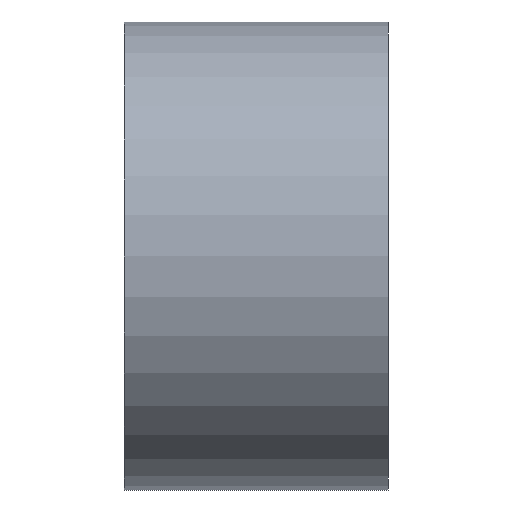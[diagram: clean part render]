
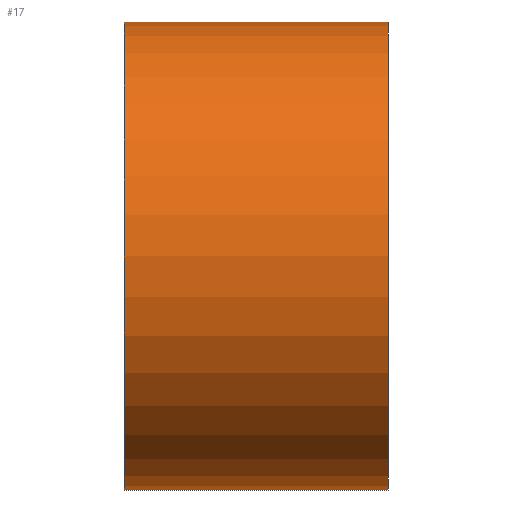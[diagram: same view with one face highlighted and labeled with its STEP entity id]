
A CAD part, front view. The second image highlights one B-rep face of the part: STEP entity #17.
In plain terms, the highlighted cylindrical face has radius 39 mm (diameter 78 mm), a full revolution.
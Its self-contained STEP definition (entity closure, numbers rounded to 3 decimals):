
#17 = ADVANCED_FACE('',(#18),#32,.T.);
#18 = FACE_BOUND('',#19,.F.);
#19 = EDGE_LOOP('',(#20,#50,#77,#78));
#20 = ORIENTED_EDGE('',*,*,#21,.T.);
#21 = EDGE_CURVE('',#22,#24,#26,.T.);
#22 = VERTEX_POINT('',#23);
#23 = CARTESIAN_POINT('',(-22.,39.,0.));
#24 = VERTEX_POINT('',#25);
#25 = CARTESIAN_POINT('',(22.,39.,0.));
#26 = SEAM_CURVE('',#27,(#31,#43),.PCURVE_S1.);
#27 = LINE('',#28,#29);
#28 = CARTESIAN_POINT('',(-22.,39.,0.));
#29 = VECTOR('',#30,1.);
#30 = DIRECTION('',(1.,0.,0.));
#31 = PCURVE('',#32,#37);
#32 = CYLINDRICAL_SURFACE('',#33,39.);
#33 = AXIS2_PLACEMENT_3D('',#34,#35,#36);
#34 = CARTESIAN_POINT('',(-22.,0.,0.));
#35 = DIRECTION('',(-1.,-0.,-0.));
#36 = DIRECTION('',(0.,1.,0.));
#37 = DEFINITIONAL_REPRESENTATION('',(#38),#42);
#38 = LINE('',#39,#40);
#39 = CARTESIAN_POINT('',(-0.,0.));
#40 = VECTOR('',#41,1.);
#41 = DIRECTION('',(-0.,-1.));
#42 = ( GEOMETRIC_REPRESENTATION_CONTEXT(2) 
PARAMETRIC_REPRESENTATION_CONTEXT() REPRESENTATION_CONTEXT('2D SPACE',''
  ) );
#43 = PCURVE('',#32,#44);
#44 = DEFINITIONAL_REPRESENTATION('',(#45),#49);
#45 = LINE('',#46,#47);
#46 = CARTESIAN_POINT('',(-6.283,0.));
#47 = VECTOR('',#48,1.);
#48 = DIRECTION('',(-0.,-1.));
#49 = ( GEOMETRIC_REPRESENTATION_CONTEXT(2) 
PARAMETRIC_REPRESENTATION_CONTEXT() REPRESENTATION_CONTEXT('2D SPACE',''
  ) );
#50 = ORIENTED_EDGE('',*,*,#51,.T.);
#51 = EDGE_CURVE('',#24,#24,#52,.T.);
#52 = SURFACE_CURVE('',#53,(#58,#65),.PCURVE_S1.);
#53 = CIRCLE('',#54,39.);
#54 = AXIS2_PLACEMENT_3D('',#55,#56,#57);
#55 = CARTESIAN_POINT('',(22.,0.,0.));
#56 = DIRECTION('',(1.,0.,0.));
#57 = DIRECTION('',(0.,1.,0.));
#58 = PCURVE('',#32,#59);
#59 = DEFINITIONAL_REPRESENTATION('',(#60),#64);
#60 = LINE('',#61,#62);
#61 = CARTESIAN_POINT('',(-0.,-44.));
#62 = VECTOR('',#63,1.);
#63 = DIRECTION('',(-1.,0.));
#64 = ( GEOMETRIC_REPRESENTATION_CONTEXT(2) 
PARAMETRIC_REPRESENTATION_CONTEXT() REPRESENTATION_CONTEXT('2D SPACE',''
  ) );
#65 = PCURVE('',#66,#71);
#66 = PLANE('',#67);
#67 = AXIS2_PLACEMENT_3D('',#68,#69,#70);
#68 = CARTESIAN_POINT('',(22.,0.,0.));
#69 = DIRECTION('',(1.,0.,0.));
#70 = DIRECTION('',(-0.,0.,1.));
#71 = DEFINITIONAL_REPRESENTATION('',(#72),#76);
#72 = CIRCLE('',#73,39.);
#73 = AXIS2_PLACEMENT_2D('',#74,#75);
#74 = CARTESIAN_POINT('',(0.,0.));
#75 = DIRECTION('',(0.,-1.));
#76 = ( GEOMETRIC_REPRESENTATION_CONTEXT(2) 
PARAMETRIC_REPRESENTATION_CONTEXT() REPRESENTATION_CONTEXT('2D SPACE',''
  ) );
#77 = ORIENTED_EDGE('',*,*,#21,.F.);
#78 = ORIENTED_EDGE('',*,*,#79,.F.);
#79 = EDGE_CURVE('',#22,#22,#80,.T.);
#80 = SURFACE_CURVE('',#81,(#86,#93),.PCURVE_S1.);
#81 = CIRCLE('',#82,39.);
#82 = AXIS2_PLACEMENT_3D('',#83,#84,#85);
#83 = CARTESIAN_POINT('',(-22.,0.,0.));
#84 = DIRECTION('',(1.,0.,0.));
#85 = DIRECTION('',(0.,1.,0.));
#86 = PCURVE('',#32,#87);
#87 = DEFINITIONAL_REPRESENTATION('',(#88),#92);
#88 = LINE('',#89,#90);
#89 = CARTESIAN_POINT('',(-0.,0.));
#90 = VECTOR('',#91,1.);
#91 = DIRECTION('',(-1.,0.));
#92 = ( GEOMETRIC_REPRESENTATION_CONTEXT(2) 
PARAMETRIC_REPRESENTATION_CONTEXT() REPRESENTATION_CONTEXT('2D SPACE',''
  ) );
#93 = PCURVE('',#94,#99);
#94 = PLANE('',#95);
#95 = AXIS2_PLACEMENT_3D('',#96,#97,#98);
#96 = CARTESIAN_POINT('',(-22.,0.,0.));
#97 = DIRECTION('',(1.,0.,0.));
#98 = DIRECTION('',(-0.,0.,1.));
#99 = DEFINITIONAL_REPRESENTATION('',(#100),#104);
#100 = CIRCLE('',#101,39.);
#101 = AXIS2_PLACEMENT_2D('',#102,#103);
#102 = CARTESIAN_POINT('',(0.,0.));
#103 = DIRECTION('',(0.,-1.));
#104 = ( GEOMETRIC_REPRESENTATION_CONTEXT(2) 
PARAMETRIC_REPRESENTATION_CONTEXT() REPRESENTATION_CONTEXT('2D SPACE',''
  ) );
